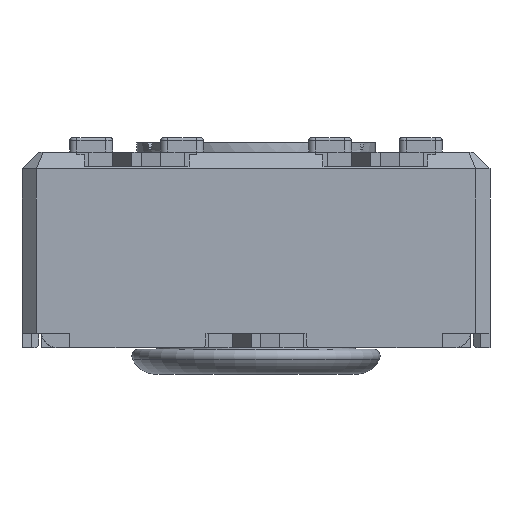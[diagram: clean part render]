
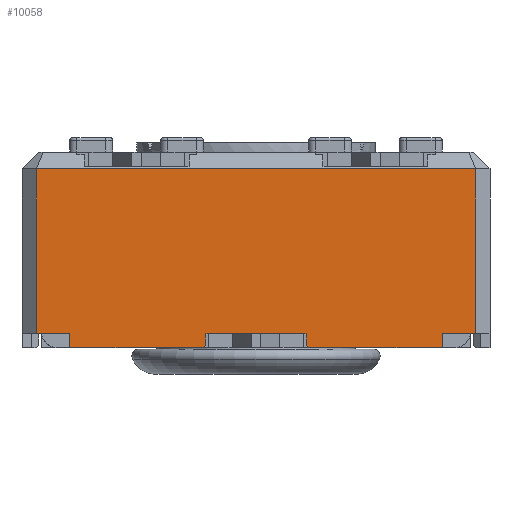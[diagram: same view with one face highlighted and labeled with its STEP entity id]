
A CAD part, front view. The second image highlights one B-rep face of the part: STEP entity #10058.
In plain terms, the highlighted planar face has unit normal (0, -1, 0).
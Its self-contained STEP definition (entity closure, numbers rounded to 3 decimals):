
#507=PLANE('',#10831);
#1009=FACE_OUTER_BOUND('',#1515,.T.);
#1515=EDGE_LOOP('',(#9276,#9277,#9278,#9279,#9280,#9281,#9282,#9283,#9284,
#9285,#9286,#9287,#9288,#9289,#9290,#9291));
#2091=LINE('',#14943,#3256);
#2193=LINE('',#15159,#3358);
#2199=LINE('',#15171,#3364);
#2207=LINE('',#15187,#3372);
#2213=LINE('',#15198,#3378);
#2378=LINE('',#15721,#3543);
#2384=LINE('',#15731,#3549);
#2387=LINE('',#15738,#3552);
#2400=LINE('',#15763,#3565);
#2456=LINE('',#15871,#3621);
#2458=LINE('',#15876,#3623);
#2460=LINE('',#15879,#3625);
#2462=LINE('',#15884,#3627);
#2652=LINE('',#16343,#3817);
#2678=LINE('',#16393,#3843);
#2680=LINE('',#16400,#3845);
#3256=VECTOR('',#12145,10.);
#3358=VECTOR('',#12325,10.);
#3364=VECTOR('',#12331,10.);
#3372=VECTOR('',#12341,10.);
#3378=VECTOR('',#12347,10.);
#3543=VECTOR('',#12822,10.);
#3549=VECTOR('',#12830,10.);
#3552=VECTOR('',#12837,10.);
#3565=VECTOR('',#12858,10.);
#3621=VECTOR('',#12958,10.);
#3623=VECTOR('',#12966,10.);
#3625=VECTOR('',#12970,10.);
#3627=VECTOR('',#12978,10.);
#3817=VECTOR('',#13416,10.);
#3843=VECTOR('',#13482,10.);
#3845=VECTOR('',#13494,10.);
#4566=VERTEX_POINT('',#14937);
#4567=VERTEX_POINT('',#14941);
#4642=VERTEX_POINT('',#15158);
#4647=VERTEX_POINT('',#15168);
#4648=VERTEX_POINT('',#15170);
#4654=VERTEX_POINT('',#15184);
#4655=VERTEX_POINT('',#15186);
#4660=VERTEX_POINT('',#15196);
#4808=VERTEX_POINT('',#15719);
#4809=VERTEX_POINT('',#15720);
#4812=VERTEX_POINT('',#15729);
#4813=VERTEX_POINT('',#15736);
#4814=VERTEX_POINT('',#15737);
#4822=VERTEX_POINT('',#15762);
#4972=VERTEX_POINT('',#16340);
#4973=VERTEX_POINT('',#16342);
#5703=EDGE_CURVE('',#4566,#4567,#2091,.T.);
#5811=EDGE_CURVE('',#4642,#4566,#2193,.T.);
#5817=EDGE_CURVE('',#4648,#4647,#2199,.T.);
#5825=EDGE_CURVE('',#4655,#4654,#2207,.T.);
#5831=EDGE_CURVE('',#4567,#4660,#2213,.T.);
#6074=EDGE_CURVE('',#4808,#4809,#2378,.T.);
#6080=EDGE_CURVE('',#4808,#4812,#2384,.T.);
#6083=EDGE_CURVE('',#4813,#4814,#2387,.T.);
#6096=EDGE_CURVE('',#4822,#4814,#2400,.T.);
#6152=EDGE_CURVE('',#4642,#4813,#2456,.T.);
#6154=EDGE_CURVE('',#4647,#4822,#2458,.T.);
#6156=EDGE_CURVE('',#4655,#4812,#2460,.T.);
#6158=EDGE_CURVE('',#4660,#4809,#2462,.T.);
#6385=EDGE_CURVE('',#4972,#4973,#2652,.T.);
#6413=EDGE_CURVE('',#4973,#4654,#2678,.T.);
#6415=EDGE_CURVE('',#4972,#4648,#2680,.T.);
#9276=ORIENTED_EDGE('',*,*,#6074,.F.);
#9277=ORIENTED_EDGE('',*,*,#6080,.T.);
#9278=ORIENTED_EDGE('',*,*,#6156,.F.);
#9279=ORIENTED_EDGE('',*,*,#5825,.T.);
#9280=ORIENTED_EDGE('',*,*,#6413,.F.);
#9281=ORIENTED_EDGE('',*,*,#6385,.F.);
#9282=ORIENTED_EDGE('',*,*,#6415,.T.);
#9283=ORIENTED_EDGE('',*,*,#5817,.T.);
#9284=ORIENTED_EDGE('',*,*,#6154,.T.);
#9285=ORIENTED_EDGE('',*,*,#6096,.T.);
#9286=ORIENTED_EDGE('',*,*,#6083,.F.);
#9287=ORIENTED_EDGE('',*,*,#6152,.F.);
#9288=ORIENTED_EDGE('',*,*,#5811,.T.);
#9289=ORIENTED_EDGE('',*,*,#5703,.T.);
#9290=ORIENTED_EDGE('',*,*,#5831,.T.);
#9291=ORIENTED_EDGE('',*,*,#6158,.T.);
#10058=ADVANCED_FACE('',(#1009),#507,.T.);
#10831=AXIS2_PLACEMENT_3D('',#16401,#13495,#13496);
#12145=DIRECTION('',(1.,0.,0.));
#12325=DIRECTION('',(1.,0.,0.));
#12331=DIRECTION('',(1.,0.,0.));
#12341=DIRECTION('',(1.,0.,0.));
#12347=DIRECTION('',(1.,0.,0.));
#12822=DIRECTION('',(-0.707,0.,0.707));
#12830=DIRECTION('',(1.,0.,0.));
#12837=DIRECTION('',(-0.707,0.,-0.707));
#12858=DIRECTION('',(1.,0.,0.));
#12958=DIRECTION('',(0.,0.,-1.));
#12966=DIRECTION('',(0.,0.,-1.));
#12970=DIRECTION('',(0.,0.,-1.));
#12978=DIRECTION('',(0.,0.,-1.));
#13416=DIRECTION('',(1.,0.,0.));
#13482=DIRECTION('',(0.,0.,-1.));
#13494=DIRECTION('',(0.,0.,-1.));
#13495=DIRECTION('center_axis',(0.,-1.,0.));
#13496=DIRECTION('ref_axis',(0.,0.,-1.));
#14937=CARTESIAN_POINT('',(-27.448,-17.99,-3.8));
#14941=CARTESIAN_POINT('',(-25.448,-17.99,-3.8));
#14943=CARTESIAN_POINT('',(-21.848,-17.99,-3.8));
#15158=CARTESIAN_POINT('',(-27.498,-17.99,-3.8));
#15159=CARTESIAN_POINT('',(-21.848,-17.99,-3.8));
#15168=CARTESIAN_POINT('',(-30.348,-17.99,-3.8));
#15170=CARTESIAN_POINT('',(-31.048,-17.99,-3.8));
#15171=CARTESIAN_POINT('',(-21.848,-17.99,-3.8));
#15184=CARTESIAN_POINT('',(-21.848,-17.99,-3.8));
#15186=CARTESIAN_POINT('',(-22.548,-17.99,-3.8));
#15187=CARTESIAN_POINT('',(-21.848,-17.99,-3.8));
#15196=CARTESIAN_POINT('',(-25.398,-17.99,-3.8));
#15198=CARTESIAN_POINT('',(-21.848,-17.99,-3.8));
#15719=CARTESIAN_POINT('',(-25.348,-17.99,-4.1));
#15720=CARTESIAN_POINT('',(-25.398,-17.99,-4.05));
#15721=CARTESIAN_POINT('',(-27.81,-17.99,-1.637));
#15729=CARTESIAN_POINT('',(-22.548,-17.99,-4.1));
#15731=CARTESIAN_POINT('',(-21.848,-17.99,-4.1));
#15736=CARTESIAN_POINT('',(-27.498,-17.99,-4.05));
#15737=CARTESIAN_POINT('',(-27.548,-17.99,-4.1));
#15738=CARTESIAN_POINT('',(-27.385,-17.99,-3.938));
#15762=CARTESIAN_POINT('',(-30.348,-17.99,-4.1));
#15763=CARTESIAN_POINT('',(-21.848,-17.99,-4.1));
#15871=CARTESIAN_POINT('',(-27.498,-17.99,-3.8));
#15876=CARTESIAN_POINT('',(-30.348,-17.99,-3.8));
#15879=CARTESIAN_POINT('',(-22.548,-17.99,-3.8));
#15884=CARTESIAN_POINT('',(-25.398,-17.99,-3.8));
#16340=CARTESIAN_POINT('',(-31.048,-17.99,-0.35));
#16342=CARTESIAN_POINT('',(-21.848,-17.99,-0.35));
#16343=CARTESIAN_POINT('',(-28.748,-17.99,-0.35));
#16393=CARTESIAN_POINT('',(-21.848,-17.99,0.));
#16400=CARTESIAN_POINT('',(-31.048,-17.99,0.));
#16401=CARTESIAN_POINT('Origin',(-31.048,-17.99,0.));
